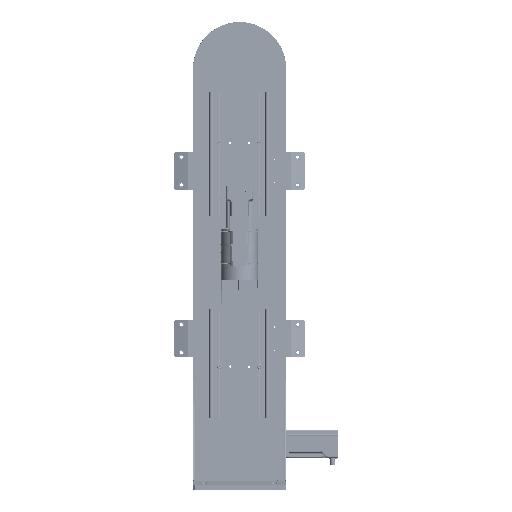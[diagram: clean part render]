
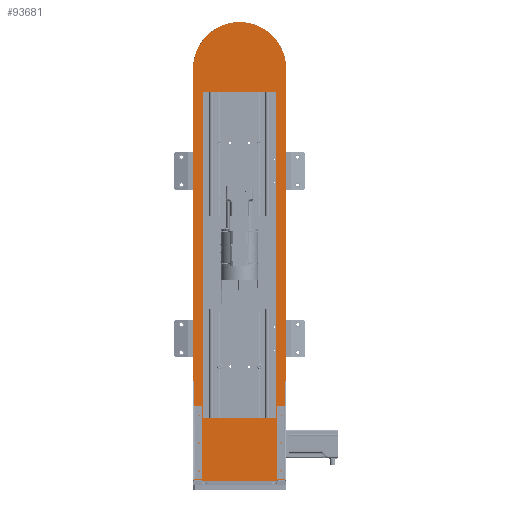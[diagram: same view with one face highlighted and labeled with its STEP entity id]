
A CAD part, front view. The second image highlights one B-rep face of the part: STEP entity #93681.
In plain terms, the highlighted planar face has unit normal (0, -1, 0).
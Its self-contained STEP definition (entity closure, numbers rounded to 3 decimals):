
#2256=PLANE('',#99322);
#4940=FACE_BOUND('',#11988,.T.);
#4941=FACE_BOUND('',#11989,.T.);
#4942=FACE_BOUND('',#11990,.T.);
#4943=FACE_BOUND('',#11991,.T.);
#4944=FACE_BOUND('',#11992,.T.);
#4945=FACE_BOUND('',#11993,.T.);
#4946=FACE_BOUND('',#11994,.T.);
#6866=FACE_OUTER_BOUND('',#11987,.T.);
#11987=EDGE_LOOP('',(#63316,#63317,#63318,#63319));
#11988=EDGE_LOOP('',(#63320,#63321));
#11989=EDGE_LOOP('',(#63322,#63323));
#11990=EDGE_LOOP('',(#63324,#63325));
#11991=EDGE_LOOP('',(#63326,#63327));
#11992=EDGE_LOOP('',(#63328,#63329));
#11993=EDGE_LOOP('',(#63330,#63331));
#11994=EDGE_LOOP('',(#63332,#63333,#63334,#63335));
#18191=LINE('',#139921,#25585);
#18192=LINE('',#139923,#25586);
#18193=LINE('',#139924,#25587);
#18194=LINE('',#139927,#25588);
#18195=LINE('',#139929,#25589);
#18196=LINE('',#139931,#25590);
#18197=LINE('',#139932,#25591);
#25585=VECTOR('',#110457,10.);
#25586=VECTOR('',#110458,10.);
#25587=VECTOR('',#110459,10.);
#25588=VECTOR('',#110460,10.);
#25589=VECTOR('',#110461,10.);
#25590=VECTOR('',#110462,10.);
#25591=VECTOR('',#110463,10.);
#32998=CIRCLE('',#99276,1.621);
#32999=CIRCLE('',#99277,1.621);
#33001=CIRCLE('',#99280,1.621);
#33002=CIRCLE('',#99281,1.621);
#33006=CIRCLE('',#99287,1.621);
#33007=CIRCLE('',#99288,1.621);
#33013=CIRCLE('',#99297,1.621);
#33014=CIRCLE('',#99298,1.621);
#33018=CIRCLE('',#99304,1.621);
#33019=CIRCLE('',#99305,1.621);
#33023=CIRCLE('',#99311,1.621);
#33024=CIRCLE('',#99312,1.621);
#33026=CIRCLE('',#99315,100.);
#38644=VERTEX_POINT('',#139675);
#38645=VERTEX_POINT('',#139676);
#38647=VERTEX_POINT('',#139683);
#38648=VERTEX_POINT('',#139684);
#38652=VERTEX_POINT('',#139697);
#38653=VERTEX_POINT('',#139698);
#38659=VERTEX_POINT('',#139717);
#38660=VERTEX_POINT('',#139718);
#38664=VERTEX_POINT('',#139731);
#38665=VERTEX_POINT('',#139732);
#38669=VERTEX_POINT('',#139745);
#38670=VERTEX_POINT('',#139746);
#38672=VERTEX_POINT('',#139753);
#38673=VERTEX_POINT('',#139754);
#38688=VERTEX_POINT('',#139920);
#38689=VERTEX_POINT('',#139922);
#38690=VERTEX_POINT('',#139925);
#38691=VERTEX_POINT('',#139926);
#38692=VERTEX_POINT('',#139928);
#38693=VERTEX_POINT('',#139930);
#48709=EDGE_CURVE('',#38644,#38645,#32998,.T.);
#48710=EDGE_CURVE('',#38645,#38644,#32999,.T.);
#48713=EDGE_CURVE('',#38647,#38648,#33001,.T.);
#48714=EDGE_CURVE('',#38648,#38647,#33002,.T.);
#48720=EDGE_CURVE('',#38652,#38653,#33006,.T.);
#48721=EDGE_CURVE('',#38653,#38652,#33007,.T.);
#48730=EDGE_CURVE('',#38659,#38660,#33013,.T.);
#48731=EDGE_CURVE('',#38660,#38659,#33014,.T.);
#48737=EDGE_CURVE('',#38664,#38665,#33018,.T.);
#48738=EDGE_CURVE('',#38665,#38664,#33019,.T.);
#48744=EDGE_CURVE('',#38669,#38670,#33023,.T.);
#48745=EDGE_CURVE('',#38670,#38669,#33024,.T.);
#48748=EDGE_CURVE('',#38672,#38673,#33026,.T.);
#48765=EDGE_CURVE('',#38688,#38673,#18191,.T.);
#48766=EDGE_CURVE('',#38689,#38688,#18192,.T.);
#48767=EDGE_CURVE('',#38689,#38672,#18193,.T.);
#48768=EDGE_CURVE('',#38690,#38691,#18194,.T.);
#48769=EDGE_CURVE('',#38691,#38692,#18195,.T.);
#48770=EDGE_CURVE('',#38692,#38693,#18196,.T.);
#48771=EDGE_CURVE('',#38693,#38690,#18197,.T.);
#63316=ORIENTED_EDGE('',*,*,#48748,.T.);
#63317=ORIENTED_EDGE('',*,*,#48765,.F.);
#63318=ORIENTED_EDGE('',*,*,#48766,.F.);
#63319=ORIENTED_EDGE('',*,*,#48767,.T.);
#63320=ORIENTED_EDGE('',*,*,#48709,.T.);
#63321=ORIENTED_EDGE('',*,*,#48710,.T.);
#63322=ORIENTED_EDGE('',*,*,#48713,.T.);
#63323=ORIENTED_EDGE('',*,*,#48714,.T.);
#63324=ORIENTED_EDGE('',*,*,#48720,.T.);
#63325=ORIENTED_EDGE('',*,*,#48721,.T.);
#63326=ORIENTED_EDGE('',*,*,#48730,.T.);
#63327=ORIENTED_EDGE('',*,*,#48731,.T.);
#63328=ORIENTED_EDGE('',*,*,#48737,.T.);
#63329=ORIENTED_EDGE('',*,*,#48738,.T.);
#63330=ORIENTED_EDGE('',*,*,#48744,.T.);
#63331=ORIENTED_EDGE('',*,*,#48745,.T.);
#63332=ORIENTED_EDGE('',*,*,#48768,.T.);
#63333=ORIENTED_EDGE('',*,*,#48769,.T.);
#63334=ORIENTED_EDGE('',*,*,#48770,.T.);
#63335=ORIENTED_EDGE('',*,*,#48771,.T.);
#93681=ADVANCED_FACE('',(#6866,#4940,#4941,#4942,#4943,#4944,#4945,#4946),
#2256,.T.);
#99276=AXIS2_PLACEMENT_3D('',#139677,#110345,#110346);
#99277=AXIS2_PLACEMENT_3D('',#139678,#110347,#110348);
#99280=AXIS2_PLACEMENT_3D('',#139685,#110354,#110355);
#99281=AXIS2_PLACEMENT_3D('',#139686,#110356,#110357);
#99287=AXIS2_PLACEMENT_3D('',#139699,#110370,#110371);
#99288=AXIS2_PLACEMENT_3D('',#139700,#110372,#110373);
#99297=AXIS2_PLACEMENT_3D('',#139719,#110393,#110394);
#99298=AXIS2_PLACEMENT_3D('',#139720,#110395,#110396);
#99304=AXIS2_PLACEMENT_3D('',#139733,#110409,#110410);
#99305=AXIS2_PLACEMENT_3D('',#139734,#110411,#110412);
#99311=AXIS2_PLACEMENT_3D('',#139747,#110425,#110426);
#99312=AXIS2_PLACEMENT_3D('',#139748,#110427,#110428);
#99315=AXIS2_PLACEMENT_3D('',#139755,#110434,#110435);
#99322=AXIS2_PLACEMENT_3D('',#139919,#110455,#110456);
#110345=DIRECTION('center_axis',(0.,1.,0.));
#110346=DIRECTION('ref_axis',(-1.,0.,0.));
#110347=DIRECTION('center_axis',(0.,1.,0.));
#110348=DIRECTION('ref_axis',(-1.,0.,0.));
#110354=DIRECTION('center_axis',(0.,1.,0.));
#110355=DIRECTION('ref_axis',(-1.,0.,0.));
#110356=DIRECTION('center_axis',(0.,1.,0.));
#110357=DIRECTION('ref_axis',(-1.,0.,0.));
#110370=DIRECTION('center_axis',(0.,1.,0.));
#110371=DIRECTION('ref_axis',(-1.,0.,0.));
#110372=DIRECTION('center_axis',(0.,1.,0.));
#110373=DIRECTION('ref_axis',(-1.,0.,0.));
#110393=DIRECTION('center_axis',(0.,1.,0.));
#110394=DIRECTION('ref_axis',(1.,0.,0.));
#110395=DIRECTION('center_axis',(0.,1.,0.));
#110396=DIRECTION('ref_axis',(1.,0.,0.));
#110409=DIRECTION('center_axis',(0.,1.,0.));
#110410=DIRECTION('ref_axis',(1.,0.,0.));
#110411=DIRECTION('center_axis',(0.,1.,0.));
#110412=DIRECTION('ref_axis',(1.,0.,0.));
#110425=DIRECTION('center_axis',(0.,1.,0.));
#110426=DIRECTION('ref_axis',(1.,0.,0.));
#110427=DIRECTION('center_axis',(0.,1.,0.));
#110428=DIRECTION('ref_axis',(1.,0.,0.));
#110434=DIRECTION('center_axis',(0.,-1.,0.));
#110435=DIRECTION('ref_axis',(-1.,0.,0.));
#110455=DIRECTION('center_axis',(0.,-1.,0.));
#110456=DIRECTION('ref_axis',(1.,0.,0.));
#110457=DIRECTION('',(0.,0.,1.));
#110458=DIRECTION('',(-1.,0.,0.));
#110459=DIRECTION('',(0.,0.,1.));
#110460=DIRECTION('',(1.,0.,0.));
#110461=DIRECTION('',(0.,0.,-1.));
#110462=DIRECTION('',(-1.,0.,0.));
#110463=DIRECTION('',(0.,0.,1.));
#139675=CARTESIAN_POINT('',(86.379,-40.,-345.));
#139676=CARTESIAN_POINT('',(89.621,-40.,-345.));
#139677=CARTESIAN_POINT('Origin',(88.,-40.,-345.));
#139678=CARTESIAN_POINT('Origin',(88.,-40.,-345.));
#139683=CARTESIAN_POINT('',(86.379,-40.,-465.));
#139684=CARTESIAN_POINT('',(89.621,-40.,-465.));
#139685=CARTESIAN_POINT('Origin',(88.,-40.,-465.));
#139686=CARTESIAN_POINT('Origin',(88.,-40.,-465.));
#139697=CARTESIAN_POINT('',(86.379,-40.,-405.));
#139698=CARTESIAN_POINT('',(89.621,-40.,-405.));
#139699=CARTESIAN_POINT('Origin',(88.,-40.,-405.));
#139700=CARTESIAN_POINT('Origin',(88.,-40.,-405.));
#139717=CARTESIAN_POINT('',(-86.379,-40.,-405.));
#139718=CARTESIAN_POINT('',(-89.621,-40.,-405.));
#139719=CARTESIAN_POINT('Origin',(-88.,-40.,-405.));
#139720=CARTESIAN_POINT('Origin',(-88.,-40.,-405.));
#139731=CARTESIAN_POINT('',(-86.379,-40.,-465.));
#139732=CARTESIAN_POINT('',(-89.621,-40.,-465.));
#139733=CARTESIAN_POINT('Origin',(-88.,-40.,-465.));
#139734=CARTESIAN_POINT('Origin',(-88.,-40.,-465.));
#139745=CARTESIAN_POINT('',(-86.379,-40.,-345.));
#139746=CARTESIAN_POINT('',(-89.621,-40.,-345.));
#139747=CARTESIAN_POINT('Origin',(-88.,-40.,-345.));
#139748=CARTESIAN_POINT('Origin',(-88.,-40.,-345.));
#139753=CARTESIAN_POINT('',(100.,-40.,400.));
#139754=CARTESIAN_POINT('',(-100.,-40.,400.));
#139755=CARTESIAN_POINT('Origin',(0.,-40.,400.));
#139919=CARTESIAN_POINT('Origin',(-100.,-40.,0.));
#139920=CARTESIAN_POINT('',(-100.,-40.,-500.));
#139921=CARTESIAN_POINT('',(-100.,-40.,0.));
#139922=CARTESIAN_POINT('',(100.,-40.,-500.));
#139923=CARTESIAN_POINT('',(-100.,-40.,-500.));
#139924=CARTESIAN_POINT('',(100.,-40.,0.));
#139925=CARTESIAN_POINT('',(-77.5,-40.,350.));
#139926=CARTESIAN_POINT('',(77.5,-40.,350.));
#139927=CARTESIAN_POINT('',(-88.75,-40.,350.));
#139928=CARTESIAN_POINT('',(77.5,-40.,-350.));
#139929=CARTESIAN_POINT('',(77.5,-40.,175.));
#139930=CARTESIAN_POINT('',(-77.5,-40.,-350.));
#139931=CARTESIAN_POINT('',(-11.25,-40.,-350.));
#139932=CARTESIAN_POINT('',(-77.5,-40.,-175.));
